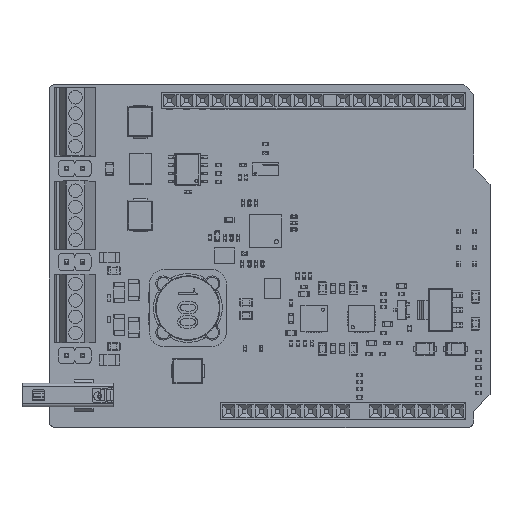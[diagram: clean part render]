
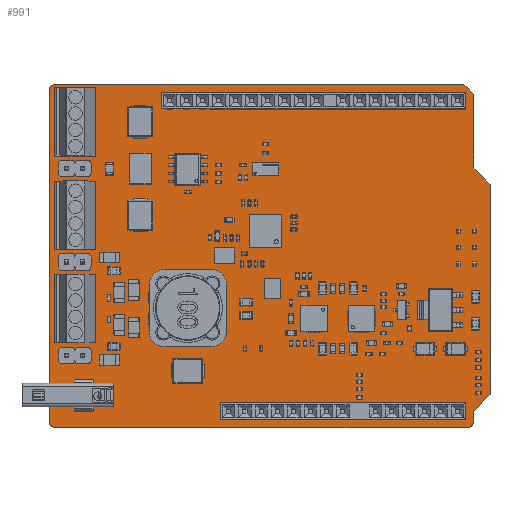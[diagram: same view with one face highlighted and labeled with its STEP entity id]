
A CAD part, top view. The second image highlights one B-rep face of the part: STEP entity #991.
In plain terms, the highlighted planar face has unit normal (0, 0, 1).
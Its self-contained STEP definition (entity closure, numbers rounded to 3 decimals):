
#504 = VERTEX_POINT('',#505);
#505 = CARTESIAN_POINT('',(0.,1.,1.606));
#511 = EDGE_CURVE('',#504,#512,#514,.T.);
#512 = VERTEX_POINT('',#513);
#513 = CARTESIAN_POINT('',(0.,52.34,1.606));
#514 = LINE('',#515,#516);
#515 = CARTESIAN_POINT('',(0.,1.,1.606));
#516 = VECTOR('',#517,1.);
#517 = DIRECTION('',(0.,1.,0.));
#542 = EDGE_CURVE('',#512,#543,#545,.T.);
#543 = VERTEX_POINT('',#544);
#544 = CARTESIAN_POINT('',(1.,53.34,1.606));
#545 = CIRCLE('',#546,1.);
#546 = AXIS2_PLACEMENT_3D('',#547,#548,#549);
#547 = CARTESIAN_POINT('',(1.,52.34,1.606));
#548 = DIRECTION('',(0.,0.,-1.));
#549 = DIRECTION('',(-1.,0.,0.));
#575 = EDGE_CURVE('',#543,#576,#578,.T.);
#576 = VERTEX_POINT('',#577);
#577 = CARTESIAN_POINT('',(64.516,53.34,1.606));
#578 = LINE('',#579,#580);
#579 = CARTESIAN_POINT('',(1.,53.34,1.606));
#580 = VECTOR('',#581,1.);
#581 = DIRECTION('',(1.,0.,0.));
#606 = EDGE_CURVE('',#576,#607,#609,.T.);
#607 = VERTEX_POINT('',#608);
#608 = CARTESIAN_POINT('',(66.04,51.816,1.606));
#609 = LINE('',#610,#611);
#610 = CARTESIAN_POINT('',(64.516,53.34,1.606));
#611 = VECTOR('',#612,1.);
#612 = DIRECTION('',(0.707,-0.707,0.));
#637 = EDGE_CURVE('',#607,#638,#640,.T.);
#638 = VERTEX_POINT('',#639);
#639 = CARTESIAN_POINT('',(66.04,40.8,1.606));
#640 = LINE('',#641,#642);
#641 = CARTESIAN_POINT('',(66.04,51.816,1.606));
#642 = VECTOR('',#643,1.);
#643 = DIRECTION('',(0.,-1.,0.));
#668 = EDGE_CURVE('',#638,#669,#671,.T.);
#669 = VERTEX_POINT('',#670);
#670 = CARTESIAN_POINT('',(66.04,40.386,1.606));
#671 = LINE('',#672,#673);
#672 = CARTESIAN_POINT('',(66.04,51.816,1.606));
#673 = VECTOR('',#674,1.);
#674 = DIRECTION('',(0.,-1.,0.));
#699 = EDGE_CURVE('',#669,#700,#702,.T.);
#700 = VERTEX_POINT('',#701);
#701 = CARTESIAN_POINT('',(66.333,40.093,1.606));
#702 = LINE('',#703,#704);
#703 = CARTESIAN_POINT('',(66.04,40.386,1.606));
#704 = VECTOR('',#705,1.);
#705 = DIRECTION('',(0.707,-0.707,0.));
#730 = EDGE_CURVE('',#700,#731,#733,.T.);
#731 = VERTEX_POINT('',#732);
#732 = CARTESIAN_POINT('',(68.58,37.846,1.606));
#733 = LINE('',#734,#735);
#734 = CARTESIAN_POINT('',(66.04,40.386,1.606));
#735 = VECTOR('',#736,1.);
#736 = DIRECTION('',(0.707,-0.707,0.));
#761 = EDGE_CURVE('',#731,#762,#764,.T.);
#762 = VERTEX_POINT('',#763);
#763 = CARTESIAN_POINT('',(68.58,5.08,1.606));
#764 = LINE('',#765,#766);
#765 = CARTESIAN_POINT('',(68.58,37.846,1.606));
#766 = VECTOR('',#767,1.);
#767 = DIRECTION('',(0.,-1.,0.));
#792 = EDGE_CURVE('',#762,#793,#795,.T.);
#793 = VERTEX_POINT('',#794);
#794 = CARTESIAN_POINT('',(66.04,2.54,1.606));
#795 = LINE('',#796,#797);
#796 = CARTESIAN_POINT('',(68.58,5.08,1.606));
#797 = VECTOR('',#798,1.);
#798 = DIRECTION('',(-0.707,-0.707,0.));
#823 = EDGE_CURVE('',#793,#824,#826,.T.);
#824 = VERTEX_POINT('',#825);
#825 = CARTESIAN_POINT('',(66.04,2.126,1.606));
#826 = LINE('',#827,#828);
#827 = CARTESIAN_POINT('',(66.04,2.54,1.606));
#828 = VECTOR('',#829,1.);
#829 = DIRECTION('',(0.,-1.,0.));
#854 = EDGE_CURVE('',#824,#855,#857,.T.);
#855 = VERTEX_POINT('',#856);
#856 = CARTESIAN_POINT('',(66.04,1.,1.606));
#857 = LINE('',#858,#859);
#858 = CARTESIAN_POINT('',(66.04,2.54,1.606));
#859 = VECTOR('',#860,1.);
#860 = DIRECTION('',(0.,-1.,0.));
#885 = EDGE_CURVE('',#855,#886,#888,.T.);
#886 = VERTEX_POINT('',#887);
#887 = CARTESIAN_POINT('',(65.04,0.,1.606));
#888 = CIRCLE('',#889,1.);
#889 = AXIS2_PLACEMENT_3D('',#890,#891,#892);
#890 = CARTESIAN_POINT('',(65.04,1.,1.606));
#891 = DIRECTION('',(0.,0.,-1.));
#892 = DIRECTION('',(1.,0.,0.));
#918 = EDGE_CURVE('',#886,#919,#921,.T.);
#919 = VERTEX_POINT('',#920);
#920 = CARTESIAN_POINT('',(1.,0.,1.606));
#921 = LINE('',#922,#923);
#922 = CARTESIAN_POINT('',(65.04,0.,1.606));
#923 = VECTOR('',#924,1.);
#924 = DIRECTION('',(-1.,0.,0.));
#949 = EDGE_CURVE('',#919,#504,#950,.T.);
#950 = CIRCLE('',#951,1.);
#951 = AXIS2_PLACEMENT_3D('',#952,#953,#954);
#952 = CARTESIAN_POINT('',(1.,1.,1.606));
#953 = DIRECTION('',(0.,0.,-1.));
#954 = DIRECTION('',(0.,-1.,-0.));
#991 = ADVANCED_FACE('',(#992),#1009,.F.);
#992 = FACE_BOUND('',#993,.F.);
#993 = EDGE_LOOP('',(#994,#995,#996,#997,#998,#999,#1000,#1001,#1002,
    #1003,#1004,#1005,#1006,#1007,#1008));
#994 = ORIENTED_EDGE('',*,*,#511,.T.);
#995 = ORIENTED_EDGE('',*,*,#542,.T.);
#996 = ORIENTED_EDGE('',*,*,#575,.T.);
#997 = ORIENTED_EDGE('',*,*,#606,.T.);
#998 = ORIENTED_EDGE('',*,*,#637,.T.);
#999 = ORIENTED_EDGE('',*,*,#668,.T.);
#1000 = ORIENTED_EDGE('',*,*,#699,.T.);
#1001 = ORIENTED_EDGE('',*,*,#730,.T.);
#1002 = ORIENTED_EDGE('',*,*,#761,.T.);
#1003 = ORIENTED_EDGE('',*,*,#792,.T.);
#1004 = ORIENTED_EDGE('',*,*,#823,.T.);
#1005 = ORIENTED_EDGE('',*,*,#854,.T.);
#1006 = ORIENTED_EDGE('',*,*,#885,.T.);
#1007 = ORIENTED_EDGE('',*,*,#918,.T.);
#1008 = ORIENTED_EDGE('',*,*,#949,.T.);
#1009 = PLANE('',#1010);
#1010 = AXIS2_PLACEMENT_3D('',#1011,#1012,#1013);
#1011 = CARTESIAN_POINT('',(33.635,26.573,1.606)
  );
#1012 = DIRECTION('',(-0.,-0.,-1.));
#1013 = DIRECTION('',(-1.,0.,0.));
